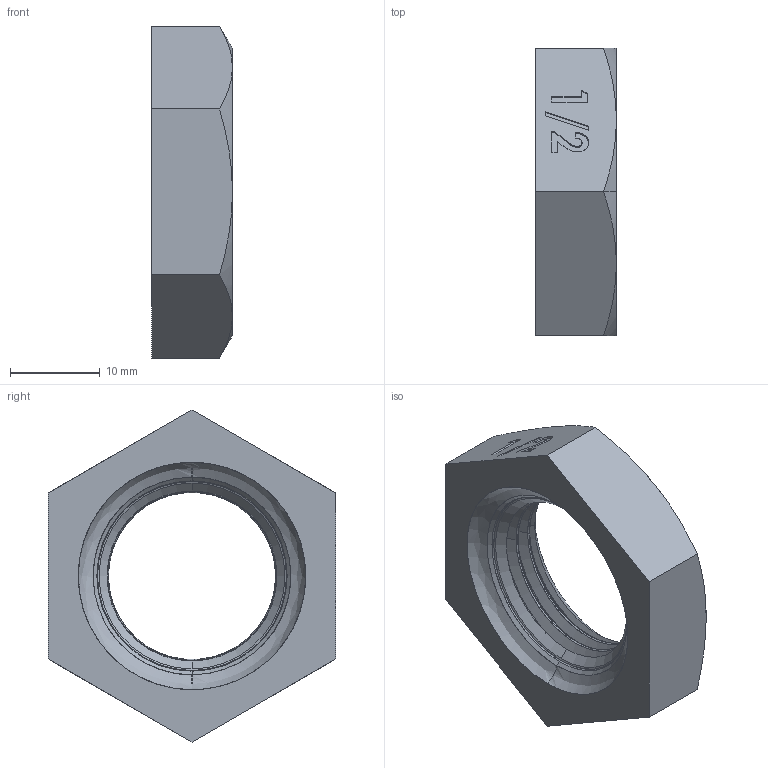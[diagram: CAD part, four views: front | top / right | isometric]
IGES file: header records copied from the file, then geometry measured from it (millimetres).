
Start section: SolidWorks IGES file using analytic representation for surfaces
Global section: file name: C:\Users\Joel Rosa\Desktop\Tubulação\12-06-XXX\12-06-004.IGS; native system: SolidWorks 2011; preprocessor: SolidWorks 2011; author: Joel Rosa; date: 130806.182309; units: millimetre
Bounding box: 9 x 32 x 36.95 mm (x, y, z)
Surface area: 2845 mm2 (no closed solid volume)
Topology: 0 solids, 0 shells, 147 faces, 1413 edges, 1413 vertices
Faces by surface type: bspline 120, revolution 27
